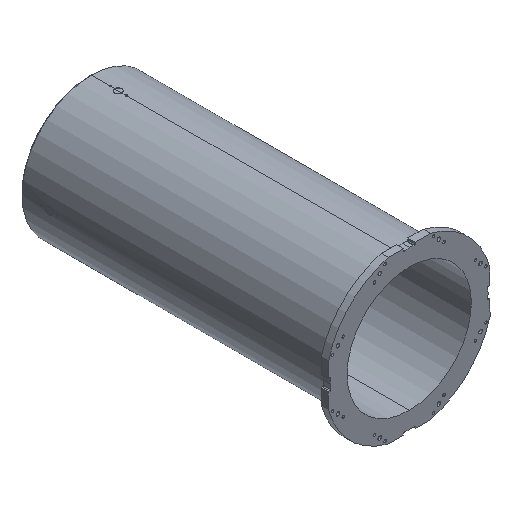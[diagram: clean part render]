
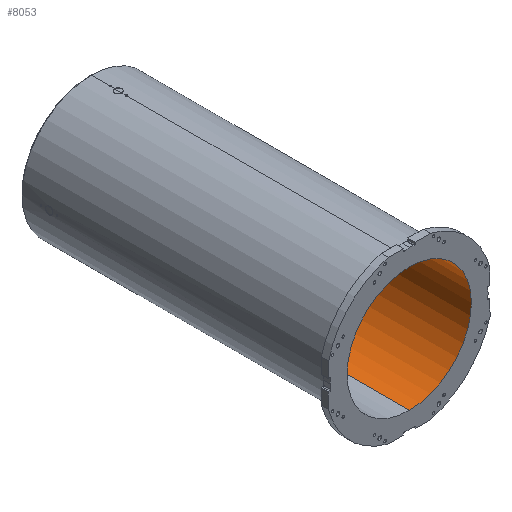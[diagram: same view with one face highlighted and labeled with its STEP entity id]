
A CAD part, isometric view. The second image highlights one B-rep face of the part: STEP entity #8053.
In plain terms, the highlighted cylindrical face has radius 350 mm (diameter 700 mm), a partial arc.
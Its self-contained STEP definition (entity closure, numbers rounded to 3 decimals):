
#243 = VERTEX_POINT ( 'NONE', #9843 ) ;
#267 = AXIS2_PLACEMENT_3D ( 'NONE', #1997, #9539, #11632 ) ;
#611 = CIRCLE ( 'NONE', #1431, 350. ) ;
#1006 = DIRECTION ( 'NONE',  ( 0., 0., 1. ) ) ;
#1334 = EDGE_CURVE ( 'NONE', #6631, #12542, #611, .T. ) ;
#1431 = AXIS2_PLACEMENT_3D ( 'NONE', #11597, #4957, #4064 ) ;
#1752 = LINE ( 'NONE', #5525, #3416 ) ;
#1997 = CARTESIAN_POINT ( 'NONE',  ( 0., 0., 0. ) ) ;
#3416 = VECTOR ( 'NONE', #8367, 1000. ) ;
#4064 = DIRECTION ( 'NONE',  ( 0., 0., 1. ) ) ;
#4205 = CARTESIAN_POINT ( 'NONE',  ( 0., 0., -350. ) ) ;
#4588 = EDGE_CURVE ( 'NONE', #6631, #243, #1752, .T. ) ;
#4957 = DIRECTION ( 'NONE',  ( 0., 1., 0. ) ) ;
#5314 = EDGE_CURVE ( 'NONE', #243, #5944, #9134, .T. ) ;
#5525 = CARTESIAN_POINT ( 'NONE',  ( 0., 0., 350. ) ) ;
#5650 = VECTOR ( 'NONE', #8063, 1000. ) ;
#5902 = ORIENTED_EDGE ( 'NONE', *, *, #6717, .F. ) ;
#5944 = VERTEX_POINT ( 'NONE', #6311 ) ;
#6042 = CARTESIAN_POINT ( 'NONE',  ( 0., 0., -350. ) ) ;
#6311 = CARTESIAN_POINT ( 'NONE',  ( 0., 1763., -350. ) ) ;
#6631 = VERTEX_POINT ( 'NONE', #7673 ) ;
#6717 = EDGE_CURVE ( 'NONE', #12542, #5944, #9000, .T. ) ;
#7522 = AXIS2_PLACEMENT_3D ( 'NONE', #10647, #9956, #1006 ) ;
#7673 = CARTESIAN_POINT ( 'NONE',  ( 0., 0., 350. ) ) ;
#7702 = FACE_OUTER_BOUND ( 'NONE', #8279, .T. ) ;
#7772 = CYLINDRICAL_SURFACE ( 'NONE', #267, 350. ) ;
#7815 = ORIENTED_EDGE ( 'NONE', *, *, #4588, .T. ) ;
#8053 = ADVANCED_FACE ( 'NONE', ( #7702 ), #7772, .F. ) ;
#8063 = DIRECTION ( 'NONE',  ( 0., 1., 0. ) ) ;
#8279 = EDGE_LOOP ( 'NONE', ( #5902, #10837, #7815, #9874 ) ) ;
#8367 = DIRECTION ( 'NONE',  ( 0., 1., 0. ) ) ;
#9000 = LINE ( 'NONE', #4205, #5650 ) ;
#9134 = CIRCLE ( 'NONE', #7522, 350. ) ;
#9539 = DIRECTION ( 'NONE',  ( 0., 1., 0. ) ) ;
#9843 = CARTESIAN_POINT ( 'NONE',  ( 0., 1763., 350. ) ) ;
#9874 = ORIENTED_EDGE ( 'NONE', *, *, #5314, .T. ) ;
#9956 = DIRECTION ( 'NONE',  ( 0., 1., 0. ) ) ;
#10647 = CARTESIAN_POINT ( 'NONE',  ( 0., 1763., 0. ) ) ;
#10837 = ORIENTED_EDGE ( 'NONE', *, *, #1334, .F. ) ;
#11597 = CARTESIAN_POINT ( 'NONE',  ( 0., 0., 0. ) ) ;
#11632 = DIRECTION ( 'NONE',  ( 0., 0., 1. ) ) ;
#12542 = VERTEX_POINT ( 'NONE', #6042 ) ;
